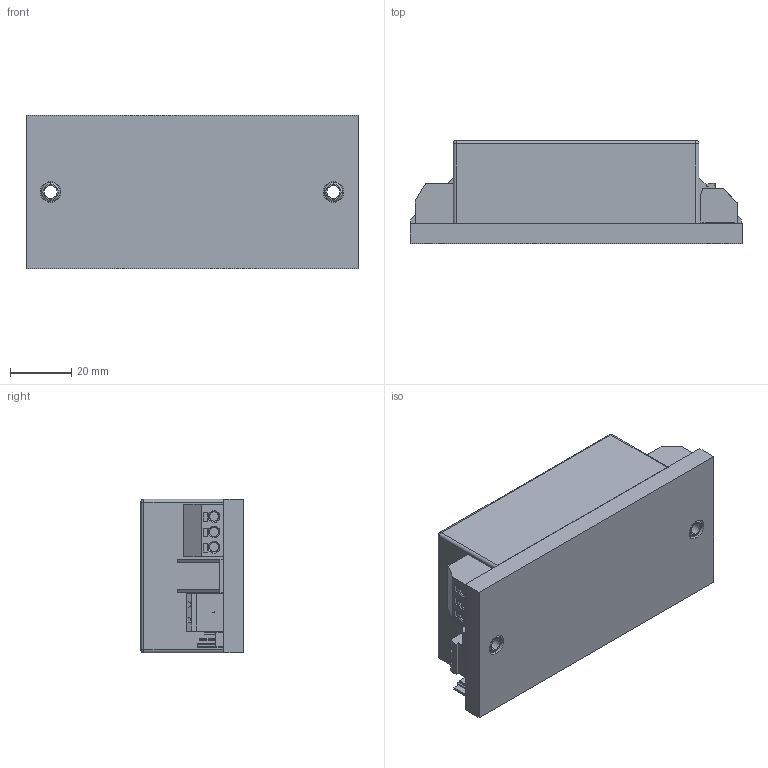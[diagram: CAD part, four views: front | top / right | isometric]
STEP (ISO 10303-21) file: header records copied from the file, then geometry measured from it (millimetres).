
FILE_DESCRIPTION (( 'STEP AP214' ), '1' );
FILE_NAME ('D-NM08-E.STEP', '2015-08-21T14:06:57', ( '' ), ( '' ), 'SwSTEP 2.0', 'SolidWorks 2015', '' );
FILE_SCHEMA (( 'AUTOMOTIVE_DESIGN' ));
Length unit declared in the file: millimetre
Products named in the file (47): Unterteil-gr; X1Dummy-NM08-E; Extruded_10; 253_103_2_03; 739871648; D-NM08-E; X5Dummy-NM08-E; Extruded_9; 250_202_2_03; SW3Dummy-MOD-S03; X2Dummy-NM08-E; SW2Dummy-MOD-S03; 633264656; SW1Dummy-MOD-S03; Extruded_5; S-2011A; 633264912; _Without_knob-Dial; Extruded_4; _S-2011A_body; 633264784; BoardDummy-MOD-S03; Extruded_3; X4Dummy-NM08-E; 633265040; 638343664; Extruded_2; Extruded_8; Aufkleber-75x45-NM08-E; 633265168; 638343792; Oberteil-gr-adr; Extruded; Extruded_7; Dummy-NM08-E; X3Dummy-NM08-E; 638343920; B8Dummy-NM08-E; 1755736; Extruded_6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
Assembly tree (102 placements, depth 7):
  D-NM08-E
    Unterteil-gr
    Dummy-NM08-E
      BoardDummy-NM08-E
      X3Dummy-NM08-E
        1755736
          mstbva_2.5-2-g-5.08
      X2Dummy-NM08-E
        633265168
          Extruded
        633265040
          Extruded_2
        633264784  x4
          Extruded_3
        633264912
          Extruded_4
        633264656  x4
          Extruded_5
      X5Dummy-NM08-E
        250_202_2_03
      X1Dummy-NM08-E
        253_103_2_03
      X4Dummy-NM08-E
        642540728  x4
          Cylinder
        638343920
          Extruded_6
        638343792
          Extruded_7
        638343664
          Extruded_8
      B8Dummy-NM08-E
        Dummy-MOD-S03
          BoardDummy-MOD-S03
          SW1Dummy-MOD-S03
            S-2011A
              _S-2011A_body
              _Without_knob-Dial
          SW2Dummy-MOD-S03
            S-2011A
              _S-2011A_body
              _Without_knob-Dial
          SW3Dummy-MOD-S03
            S-2011A
              _S-2011A_body
              _Without_knob-Dial
          X1Dummy-MOD-S03
            739871648
              Extruded_9
            739868576  x46
              Extruded_10
    Oberteil-gr-adr
    Aufkleber-75x45-NM08-E
Bounding box: 108 x 33.5 x 50 mm (x, y, z)
Volume: 40105.7 mm3; surface area: 63830.5 mm2
Topology: 79 solids, 79 shells, 1980 faces, 5033 edges, 3320 vertices
Faces by surface type: plane 1213, cylinder 723, cone 24, torus 12, bspline 4, sphere 4
Entity records: 41166 total; most frequent: DIRECTION 5717, CARTESIAN_POINT 5635, ORIENTED_EDGE 5270, EDGE_CURVE 2635, AXIS2_PLACEMENT_3D 1962, LINE 1793, VECTOR 1793, VERTEX_POINT 1728
